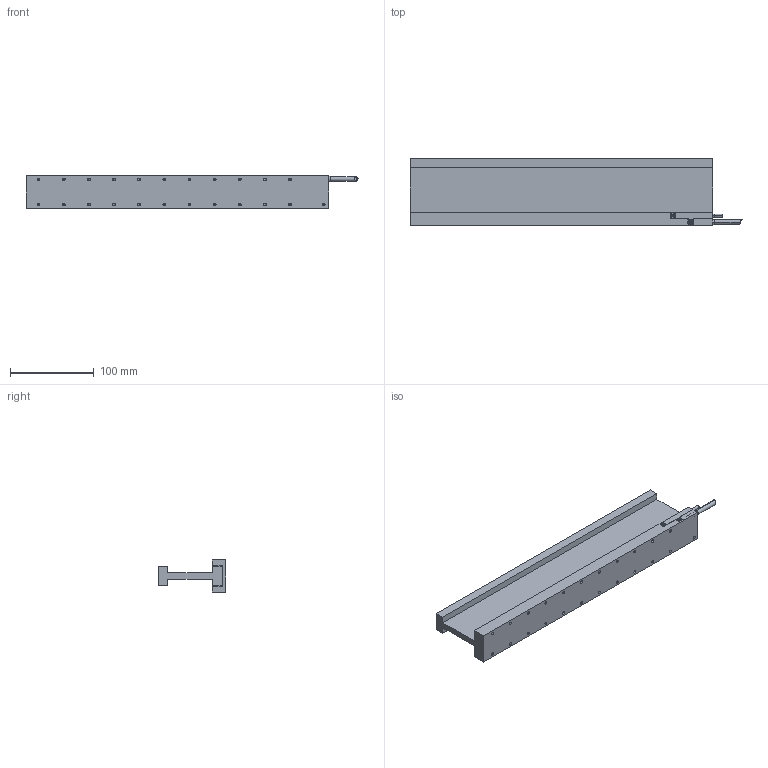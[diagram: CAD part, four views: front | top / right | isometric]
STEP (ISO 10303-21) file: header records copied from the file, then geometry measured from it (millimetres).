
FILE_DESCRIPTION (( 'STEP AP214' ), '1' );
FILE_NAME ('DX50F-C6.STEP', '2021-07-16T04:10:56', ( '' ), ( '' ), 'SwSTEP 2.0', 'SolidWorks 2020', '' );
FILE_SCHEMA (( 'AUTOMOTIVE_DESIGN' ));
Length unit declared in the file: millimetre
Products named in the file (6): DX50FCX01_C6 (CUSTOMER); CBL_MTR_PWR_SS_4C2C_SA (#3620-1); DX50F-C6; DX50FH-X.X-ZZ-00 (CUSTOMER); TIM-PC 8850FT-LV + TIM EH-9_C6; CBL_HALL_PIX_ZZ_X.X
Assembly tree (5 placements, depth 2):
  DX50F-C6
    TIM-PC 8850FT-LV + TIM EH-9_C6
    CBL_MTR_PWR_SS_4C2C_SA (#3620-1)
    DX50FCX01_C6 (CUSTOMER)
    DX50FH-X.X-ZZ-00 (CUSTOMER)
    CBL_HALL_PIX_ZZ_X.X
Bounding box: 396 x 80 x 38.2 mm (x, y, z)
Volume: 445121.5 mm3; surface area: 138509 mm2
Topology: 8 solids, 8 shells, 238 faces, 570 edges, 330 vertices
Faces by surface type: cylinder 89, plane 81, cone 62, torus 6
Entity records: 8275 total; most frequent: CARTESIAN_POINT 1290, DIRECTION 1184, ORIENTED_EDGE 1044, EDGE_CURVE 522, AXIS2_PLACEMENT_3D 433, VERTEX_POINT 330, LINE 318, VECTOR 318
